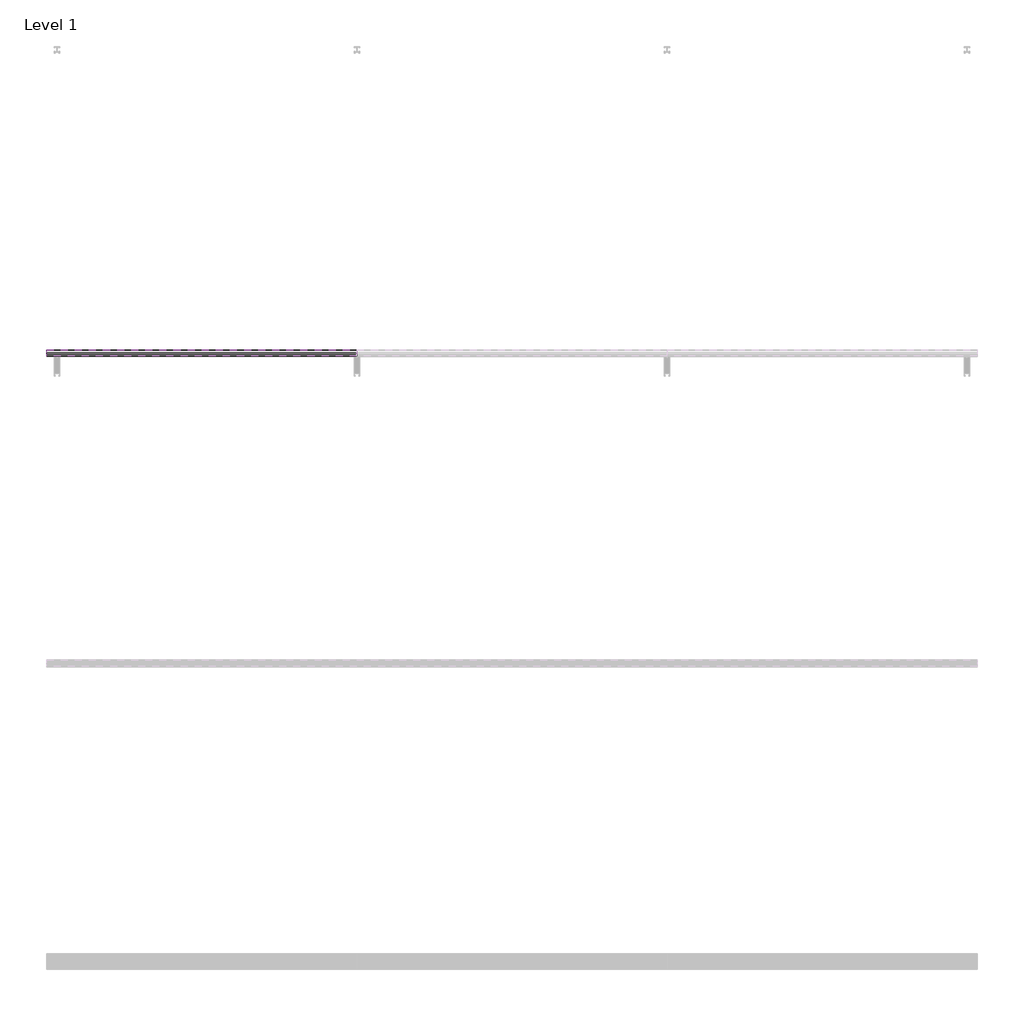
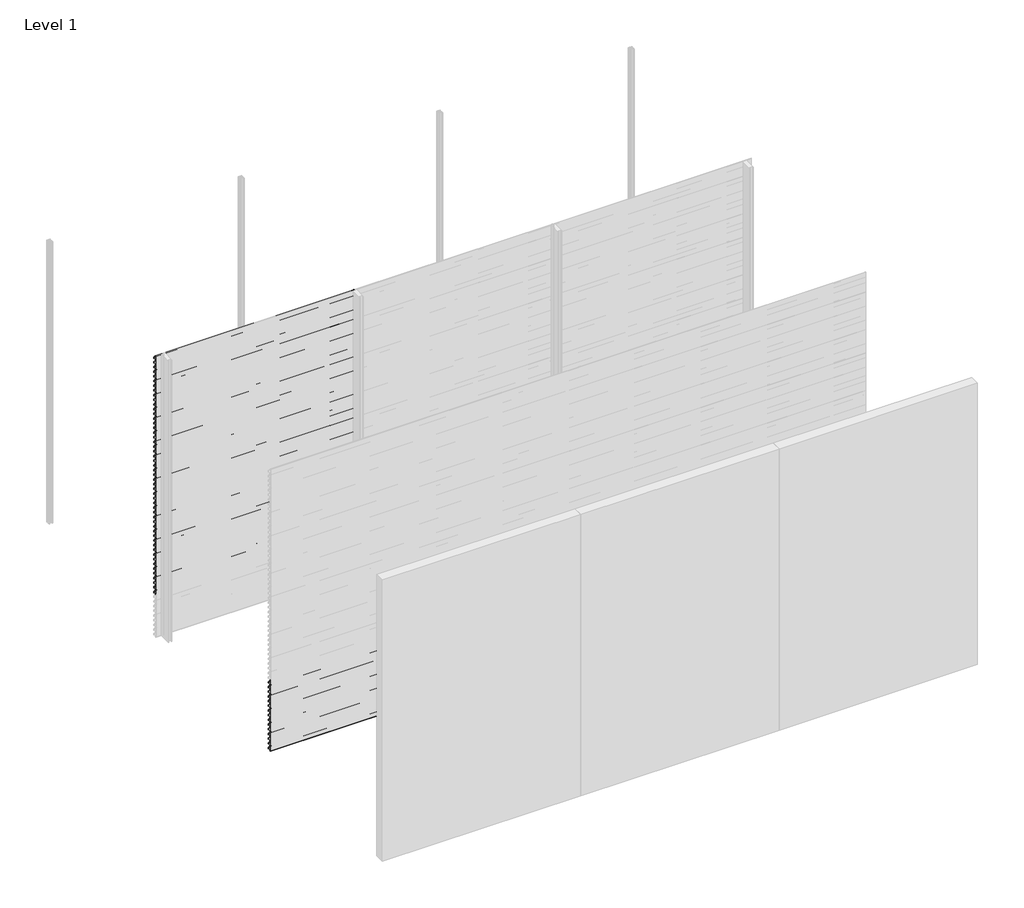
# One storey, part 7 of 38: 66 proxies.
"""IFC4 building model written with IfcOpenShell, lengths in millimetres."""

import ifcopenshell
import ifcopenshell.guid

model = None  # the IFC model being written
_history = None  # IfcOwnerHistory: only IFC2X3 demands one
_inside = {}  # id of a spatial element -> (the spatial element, [elements in it])
_under = {}  # id of a project, library or spatial element -> (it, [spatial elements below it])
_declared = {}  # id of a project -> (the project, [libraries it declares])
_typed = {}  # id of a type object -> (the type object, [elements of that type])
_made_of = {}  # id of a material, layer set ... -> (it, [elements and type objects made of it])


def new_model(schema):
    """Start an empty IFC model of exactly this schema.

    Asked for "IFC4X3", IfcOpenShell would pick the latest addendum, in which some entities
    have other attributes; the version numbers below select the first issue.
    IFC2X3 requires an IfcOwnerHistory on every rooted entity: one is made here for all.
    """
    global model, _history
    if schema == "IFC4X3":
        model = ifcopenshell.file(schema_version=(4, 3, 0, 0))
    else:
        model = ifcopenshell.file(schema=schema)
    _inside.clear()
    _under.clear()
    _declared.clear()
    _typed.clear()
    _made_of.clear()
    _history = None
    if model.schema == "IFC2X3":
        org = make("IfcOrganization", Name="unknown")
        user = make(
            "IfcPersonAndOrganization",
            ThePerson=make("IfcPerson", FamilyName="unknown"),
            TheOrganization=org,
        )
        app = make(
            "IfcApplication",
            ApplicationDeveloper=org,
            Version="unknown",
            ApplicationFullName="unknown",
            ApplicationIdentifier="unknown",
        )
        _history = make(
            "IfcOwnerHistory",
            OwningUser=user,
            OwningApplication=app,
            ChangeAction="ADDED",
            CreationDate=0,
        )
    return model


def make(cls, **values):
    """One entity of the class cls with the attributes given. An attribute that is None is left unset."""
    return model.create_entity(
        cls, **{name: value for name, value in values.items() if value is not None}
    )


def rooted(cls, **values):
    """An entity with a GlobalId (a new one), such as an element, a storey or a relation."""
    return make(cls, GlobalId=ifcopenshell.guid.new(), OwnerHistory=_history, **values)


def si_unit(unit_type, name, prefix=None):
    """IfcSIUnit, for example si_unit("LENGTHUNIT", "METRE", prefix="MILLI")."""
    return make("IfcSIUnit", UnitType=unit_type, Prefix=prefix, Name=name)


def assignment(units):
    """IfcUnitAssignment: the units of a project."""
    return None if units is None else make("IfcUnitAssignment", Units=units)


def point(xyz):
    """IfcCartesianPoint."""
    return None if xyz is None else make("IfcCartesianPoint", Coordinates=xyz)


def direction(xyz):
    """IfcDirection."""
    return None if xyz is None else make("IfcDirection", DirectionRatios=xyz)


def frame(location, z_axis=None, x_axis=None):
    """IfcAxis2Placement3D, a coordinate frame: its origin and axes. An axis left out is left unset."""
    return make(
        "IfcAxis2Placement3D",
        Location=point(location),
        Axis=direction(z_axis),
        RefDirection=direction(x_axis),
    )


def origin():
    """The frame at (0, 0, 0) with its axes left unset."""
    return frame((0.0, 0.0, 0.0))


def place(relative_to, where):
    """IfcLocalPlacement: puts the frame where relative to a parent placement (None: the world)."""
    return make(
        "IfcLocalPlacement", PlacementRelTo=relative_to, RelativePlacement=where
    )


def context(
    kind, dimensions, precision=None, world=None, true_north=None, identifier=None
):
    """IfcGeometricRepresentationContext, for example the 3D "Model" context."""
    return make(
        "IfcGeometricRepresentationContext",
        ContextIdentifier=identifier,
        ContextType=kind,
        CoordinateSpaceDimension=dimensions,
        Precision=precision,
        WorldCoordinateSystem=world,
        TrueNorth=true_north,
    )


def project(units=None, contexts=None):
    """IfcProject with its units and contexts."""
    return rooted(
        "IfcProject",
        Name="project",
        RepresentationContexts=contexts,
        UnitsInContext=assignment(units),
    )


def spatial(cls, under=None, at=None, **own):
    """A site, building, storey or space (cls), placed at a placement, below another one or the project."""
    s = rooted(cls, ObjectPlacement=at, **own)
    if under is not None:
        _under.setdefault(under.id(), (under, []))[1].append(s)
    return s


def polyline(points):
    """IfcPolyline through the points."""
    return make("IfcPolyline", Points=[point(p) for p in points])


def outline(outer, holes=None, kind="AREA"):
    """IfcArbitraryClosedProfileDef: a profile drawn as a closed curve; with holes, ...WithVoids."""
    if holes is None:
        return make("IfcArbitraryClosedProfileDef", ProfileType=kind, OuterCurve=outer)
    return make(
        "IfcArbitraryProfileDefWithVoids",
        ProfileType=kind,
        OuterCurve=outer,
        InnerCurves=holes,
    )


def extrude(swept, where, along, depth):
    """IfcExtrudedAreaSolid: the profile swept, set in the frame where, extruded along a direction by depth."""
    return make(
        "IfcExtrudedAreaSolid",
        SweptArea=swept,
        Position=where,
        ExtrudedDirection=direction(along),
        Depth=depth,
    )


def shape(context_of_items, identifier, shape_type, items):
    """IfcShapeRepresentation: the items that make up one representation, for example the "Body"."""
    return make(
        "IfcShapeRepresentation",
        ContextOfItems=context_of_items,
        RepresentationIdentifier=identifier,
        RepresentationType=shape_type,
        Items=items,
    )


def made_of(thing, what):
    """Note that an element or type object is made of a material, layer set ...; save() writes the relation."""
    if what is not None:
        _made_of.setdefault(what.id(), (what, []))[1].append(thing)
    return thing


def element(
    cls,
    number,
    at=None,
    inside=None,
    cuts=None,
    type_object=None,
    material=None,
    context=None,
    identifier="Body",
    shape_type=None,
    held_by="IfcProductDefinitionShape",
    body=None,
    shapes=None,
    **own,
):
    """One element of the class cls, such as IfcWall. Its Tag is "e" and its number.

    at: its placement. inside: the storey or other place that contains it. cuts: it is an
    opening in that element (IfcRelVoidsElement). A single representation is given by context,
    identifier, shape_type and body (its items); several are given by shapes. held_by: the class
    of the entity that holds the representations. save() writes the other relations.
    """
    e = rooted(cls, Tag="e%d" % number, ObjectPlacement=at, **own)
    if body is not None:
        shapes = [shape(context, identifier, shape_type, body)]
    if shapes is not None:
        e.Representation = make(held_by, Representations=shapes)
    if inside is not None:
        _inside.setdefault(inside.id(), (inside, []))[1].append(e)
    if cuts is not None:
        rooted(
            "IfcRelVoidsElement", RelatingBuildingElement=cuts, RelatedOpeningElement=e
        )
    if type_object is not None:
        _typed.setdefault(type_object.id(), (type_object, []))[1].append(e)
    return made_of(e, material)


def aggregate(whole, parts):
    """IfcRelAggregates: a whole, such as a stair, and the parts it consists of."""
    return rooted("IfcRelAggregates", RelatingObject=whole, RelatedObjects=parts)


def save(model, path):
    """Write the relations noted so far, then the file.

    IfcRelAggregates (storeys below a building ...), IfcRelContainedInSpatialStructure (elements
    in a storey), IfcRelDefinesByType, IfcRelAssociatesMaterial and IfcRelDeclares: one each for
    every whole, place, type object, material and project.
    """
    for whole, parts in _under.values():
        aggregate(whole, parts)
    for where, things in _inside.values():
        rooted(
            "IfcRelContainedInSpatialStructure",
            RelatedElements=things,
            RelatingStructure=where,
        )
    for kind, things in _typed.values():
        rooted("IfcRelDefinesByType", RelatedObjects=things, RelatingType=kind)
    for what, things in _made_of.values():
        rooted("IfcRelAssociatesMaterial", RelatedObjects=things, RelatingMaterial=what)
    for by, libraries in _declared.values():
        rooted("IfcRelDeclares", RelatingContext=by, RelatedDefinitions=libraries)
    model.write(path)


model = new_model("IFC4")

# Units and contexts
model_context = context("Model", 3, world=origin())
ifc_project = project(units=[si_unit("LENGTHUNIT", "METRE", prefix="MILLI")], contexts=[model_context])

# Site, building, storey
site = spatial("IfcSite", under=ifc_project)
building = spatial("IfcBuilding", under=site)
storey = spatial("IfcBuildingStorey", under=building, Name="Level 1", Elevation=0.0)

# Proxies
placement = place(None, origin())
element("IfcBuildingElementProxy", 1, Name="Wall Sweeps", at=placement, inside=storey, context=model_context, shape_type="SweptSolid", body=[
    extrude(outline(polyline([(-47996.75, 3000.0), (-47996.75, 2989.19656), (-47974.6057113, 2976.4115489), (-47957.0, 2959.0472005), (-47957.0, 2944.0472005), (-47958.3, 2945.0268207), (-47958.3, 2958.5034593), (-47969.4914725, 2969.541504), (-47994.2797376, 2940.0), (-47995.9767671, 2940.0), (-47970.4200307, 2970.4573323), (-47975.3999793, 2975.3690091), (-47998.0, 2988.4171371), (-47998.0, 3000.0), (-47996.75, 3000.0)])), frame((0.0, 0.0, 0.0), z_axis=(1.0, 0.0, 0.0), x_axis=(0.0, 1.0, 0.0)), (0.0, 0.0, 1.0), 2000.0),
])
element("IfcBuildingElementProxy", 2, Name="Wall Sweeps", at=placement, inside=storey, context=model_context, shape_type="SweptSolid", body=[
    extrude(outline(polyline([(-47996.75, 2950.0), (-47996.75, 2939.19656), (-47974.6057113, 2926.4115489), (-47957.0, 2909.0472005), (-47957.0, 2894.0472005), (-47958.3, 2895.0268207), (-47958.3, 2908.5034593), (-47969.4914725, 2919.541504), (-47994.2797376, 2890.0), (-47995.9767671, 2890.0), (-47970.4200307, 2920.4573323), (-47975.3999793, 2925.3690091), (-47998.0, 2938.4171371), (-47998.0, 2950.0), (-47996.75, 2950.0)])), frame((0.0, 0.0, 0.0), z_axis=(1.0, 0.0, 0.0), x_axis=(0.0, 1.0, 0.0)), (0.0, 0.0, 1.0), 2000.0),
])
element("IfcBuildingElementProxy", 3, Name="Wall Sweeps", at=placement, inside=storey, context=model_context, shape_type="SweptSolid", body=[
    extrude(outline(polyline([(-47996.75, 2900.0), (-47996.75, 2889.19656), (-47974.6057113, 2876.4115489), (-47957.0, 2859.0472005), (-47957.0, 2844.0472005), (-47958.3, 2845.0268207), (-47958.3, 2858.5034593), (-47969.4914725, 2869.541504), (-47994.2797376, 2840.0), (-47995.9767671, 2840.0), (-47970.4200307, 2870.4573323), (-47975.3999793, 2875.3690091), (-47998.0, 2888.4171371), (-47998.0, 2900.0), (-47996.75, 2900.0)])), frame((0.0, 0.0, 0.0), z_axis=(1.0, 0.0, 0.0), x_axis=(0.0, 1.0, 0.0)), (0.0, 0.0, 1.0), 2000.0),
])
element("IfcBuildingElementProxy", 4, Name="Wall Sweeps", at=placement, inside=storey, context=model_context, shape_type="SweptSolid", body=[
    extrude(outline(polyline([(-47996.75, 2850.0), (-47996.75, 2839.19656), (-47974.6057113, 2826.4115489), (-47957.0, 2809.0472005), (-47957.0, 2794.0472005), (-47958.3, 2795.0268207), (-47958.3, 2808.5034593), (-47969.4914725, 2819.541504), (-47994.2797376, 2790.0), (-47995.9767671, 2790.0), (-47970.4200307, 2820.4573323), (-47975.3999793, 2825.3690091), (-47998.0, 2838.4171371), (-47998.0, 2850.0), (-47996.75, 2850.0)])), frame((0.0, 0.0, 0.0), z_axis=(1.0, 0.0, 0.0), x_axis=(0.0, 1.0, 0.0)), (0.0, 0.0, 1.0), 2000.0),
])
element("IfcBuildingElementProxy", 5, Name="Wall Sweeps", at=placement, inside=storey, context=model_context, shape_type="SweptSolid", body=[
    extrude(outline(polyline([(-47996.75, 2800.0), (-47996.75, 2789.19656), (-47974.6057113, 2776.4115489), (-47957.0, 2759.0472005), (-47957.0, 2744.0472005), (-47958.3, 2745.0268207), (-47958.3, 2758.5034593), (-47969.4914725, 2769.541504), (-47994.2797376, 2740.0), (-47995.9767671, 2740.0), (-47970.4200307, 2770.4573323), (-47975.3999793, 2775.3690091), (-47998.0, 2788.4171371), (-47998.0, 2800.0), (-47996.75, 2800.0)])), frame((0.0, 0.0, 0.0), z_axis=(1.0, 0.0, 0.0), x_axis=(0.0, 1.0, 0.0)), (0.0, 0.0, 1.0), 2000.0),
])
element("IfcBuildingElementProxy", 6, Name="Wall Sweeps", at=placement, inside=storey, context=model_context, shape_type="SweptSolid", body=[
    extrude(outline(polyline([(-47996.75, 2750.0), (-47996.75, 2739.19656), (-47974.6057113, 2726.4115489), (-47957.0, 2709.0472005), (-47957.0, 2694.0472005), (-47958.3, 2695.0268207), (-47958.3, 2708.5034593), (-47969.4914725, 2719.541504), (-47994.2797376, 2690.0), (-47995.9767671, 2690.0), (-47970.4200307, 2720.4573323), (-47975.3999793, 2725.3690091), (-47998.0, 2738.4171371), (-47998.0, 2750.0), (-47996.75, 2750.0)])), frame((0.0, 0.0, 0.0), z_axis=(1.0, 0.0, 0.0), x_axis=(0.0, 1.0, 0.0)), (0.0, 0.0, 1.0), 2000.0),
])
element("IfcBuildingElementProxy", 7, Name="Wall Sweeps", at=placement, inside=storey, context=model_context, shape_type="SweptSolid", body=[
    extrude(outline(polyline([(-47996.75, 2700.0), (-47996.75, 2689.19656), (-47974.6057113, 2676.4115489), (-47957.0, 2659.0472005), (-47957.0, 2644.0472005), (-47958.3, 2645.0268207), (-47958.3, 2658.5034593), (-47969.4914725, 2669.541504), (-47994.2797376, 2640.0), (-47995.9767671, 2640.0), (-47970.4200307, 2670.4573323), (-47975.3999793, 2675.3690091), (-47998.0, 2688.4171371), (-47998.0, 2700.0), (-47996.75, 2700.0)])), frame((0.0, 0.0, 0.0), z_axis=(1.0, 0.0, 0.0), x_axis=(0.0, 1.0, 0.0)), (0.0, 0.0, 1.0), 2000.0),
])
element("IfcBuildingElementProxy", 8, Name="Wall Sweeps", at=placement, inside=storey, context=model_context, shape_type="SweptSolid", body=[
    extrude(outline(polyline([(-47996.75, 2650.0), (-47996.75, 2639.19656), (-47974.6057113, 2626.4115489), (-47957.0, 2609.0472005), (-47957.0, 2594.0472005), (-47958.3, 2595.0268207), (-47958.3, 2608.5034593), (-47969.4914725, 2619.541504), (-47994.2797376, 2590.0), (-47995.9767671, 2590.0), (-47970.4200307, 2620.4573323), (-47975.3999793, 2625.3690091), (-47998.0, 2638.4171371), (-47998.0, 2650.0), (-47996.75, 2650.0)])), frame((0.0, 0.0, 0.0), z_axis=(1.0, 0.0, 0.0), x_axis=(0.0, 1.0, 0.0)), (0.0, 0.0, 1.0), 2000.0),
])
element("IfcBuildingElementProxy", 9, Name="Wall Sweeps", at=placement, inside=storey, context=model_context, shape_type="SweptSolid", body=[
    extrude(outline(polyline([(-47996.75, 2600.0), (-47996.75, 2589.19656), (-47974.6057113, 2576.4115489), (-47957.0, 2559.0472005), (-47957.0, 2544.0472005), (-47958.3, 2545.0268207), (-47958.3, 2558.5034593), (-47969.4914725, 2569.541504), (-47994.2797376, 2540.0), (-47995.9767671, 2540.0), (-47970.4200307, 2570.4573323), (-47975.3999793, 2575.3690091), (-47998.0, 2588.4171371), (-47998.0, 2600.0), (-47996.75, 2600.0)])), frame((0.0, 0.0, 0.0), z_axis=(1.0, 0.0, 0.0), x_axis=(0.0, 1.0, 0.0)), (0.0, 0.0, 1.0), 2000.0),
])
element("IfcBuildingElementProxy", 10, Name="Wall Sweeps", at=placement, inside=storey, context=model_context, shape_type="SweptSolid", body=[
    extrude(outline(polyline([(-47996.75, 2550.0), (-47996.75, 2539.19656), (-47974.6057113, 2526.4115489), (-47957.0, 2509.0472005), (-47957.0, 2494.0472005), (-47958.3, 2495.0268207), (-47958.3, 2508.5034593), (-47969.4914725, 2519.541504), (-47994.2797376, 2490.0), (-47995.9767671, 2490.0), (-47970.4200307, 2520.4573323), (-47975.3999793, 2525.3690091), (-47998.0, 2538.4171371), (-47998.0, 2550.0), (-47996.75, 2550.0)])), frame((0.0, 0.0, 0.0), z_axis=(1.0, 0.0, 0.0), x_axis=(0.0, 1.0, 0.0)), (0.0, 0.0, 1.0), 2000.0),
])
element("IfcBuildingElementProxy", 11, Name="Wall Sweeps", at=placement, inside=storey, context=model_context, shape_type="SweptSolid", body=[
    extrude(outline(polyline([(-47996.75, 2500.0), (-47996.75, 2489.19656), (-47974.6057113, 2476.4115489), (-47957.0, 2459.0472005), (-47957.0, 2444.0472005), (-47958.3, 2445.0268207), (-47958.3, 2458.5034593), (-47969.4914725, 2469.541504), (-47994.2797376, 2440.0), (-47995.9767671, 2440.0), (-47970.4200307, 2470.4573323), (-47975.3999793, 2475.3690091), (-47998.0, 2488.4171371), (-47998.0, 2500.0), (-47996.75, 2500.0)])), frame((0.0, 0.0, 0.0), z_axis=(1.0, 0.0, 0.0), x_axis=(0.0, 1.0, 0.0)), (0.0, 0.0, 1.0), 2000.0),
])
element("IfcBuildingElementProxy", 12, Name="Wall Sweeps", at=placement, inside=storey, context=model_context, shape_type="SweptSolid", body=[
    extrude(outline(polyline([(-47996.75, 2450.0), (-47996.75, 2439.19656), (-47974.6057113, 2426.4115489), (-47957.0, 2409.0472005), (-47957.0, 2394.0472005), (-47958.3, 2395.0268207), (-47958.3, 2408.5034593), (-47969.4914725, 2419.541504), (-47994.2797376, 2390.0), (-47995.9767671, 2390.0), (-47970.4200307, 2420.4573323), (-47975.3999793, 2425.3690091), (-47998.0, 2438.4171371), (-47998.0, 2450.0), (-47996.75, 2450.0)])), frame((0.0, 0.0, 0.0), z_axis=(1.0, 0.0, 0.0), x_axis=(0.0, 1.0, 0.0)), (0.0, 0.0, 1.0), 2000.0),
])
element("IfcBuildingElementProxy", 13, Name="Wall Sweeps", at=placement, inside=storey, context=model_context, shape_type="SweptSolid", body=[
    extrude(outline(polyline([(-47996.75, 2400.0), (-47996.75, 2389.19656), (-47974.6057113, 2376.4115489), (-47957.0, 2359.0472005), (-47957.0, 2344.0472005), (-47958.3, 2345.0268207), (-47958.3, 2358.5034593), (-47969.4914725, 2369.541504), (-47994.2797376, 2340.0), (-47995.9767671, 2340.0), (-47970.4200307, 2370.4573323), (-47975.3999793, 2375.3690091), (-47998.0, 2388.4171371), (-47998.0, 2400.0), (-47996.75, 2400.0)])), frame((0.0, 0.0, 0.0), z_axis=(1.0, 0.0, 0.0), x_axis=(0.0, 1.0, 0.0)), (0.0, 0.0, 1.0), 2000.0),
])
element("IfcBuildingElementProxy", 14, Name="Wall Sweeps", at=placement, inside=storey, context=model_context, shape_type="SweptSolid", body=[
    extrude(outline(polyline([(-47996.75, 2350.0), (-47996.75, 2339.19656), (-47974.6057113, 2326.4115489), (-47957.0, 2309.0472005), (-47957.0, 2294.0472005), (-47958.3, 2295.0268207), (-47958.3, 2308.5034593), (-47969.4914725, 2319.541504), (-47994.2797376, 2290.0), (-47995.9767671, 2290.0), (-47970.4200307, 2320.4573323), (-47975.3999793, 2325.3690091), (-47998.0, 2338.4171371), (-47998.0, 2350.0), (-47996.75, 2350.0)])), frame((0.0, 0.0, 0.0), z_axis=(1.0, 0.0, 0.0), x_axis=(0.0, 1.0, 0.0)), (0.0, 0.0, 1.0), 2000.0),
])
element("IfcBuildingElementProxy", 15, Name="Wall Sweeps", at=placement, inside=storey, context=model_context, shape_type="SweptSolid", body=[
    extrude(outline(polyline([(-47996.75, 2300.0), (-47996.75, 2289.19656), (-47974.6057113, 2276.4115489), (-47957.0, 2259.0472005), (-47957.0, 2244.0472005), (-47958.3, 2245.0268207), (-47958.3, 2258.5034593), (-47969.4914725, 2269.541504), (-47994.2797376, 2240.0), (-47995.9767671, 2240.0), (-47970.4200307, 2270.4573323), (-47975.3999793, 2275.3690091), (-47998.0, 2288.4171371), (-47998.0, 2300.0), (-47996.75, 2300.0)])), frame((0.0, 0.0, 0.0), z_axis=(1.0, 0.0, 0.0), x_axis=(0.0, 1.0, 0.0)), (0.0, 0.0, 1.0), 2000.0),
])
element("IfcBuildingElementProxy", 16, Name="Wall Sweeps", at=placement, inside=storey, context=model_context, shape_type="SweptSolid", body=[
    extrude(outline(polyline([(-47996.75, 2250.0), (-47996.75, 2239.19656), (-47974.6057113, 2226.4115489), (-47957.0, 2209.0472005), (-47957.0, 2194.0472005), (-47958.3, 2195.0268207), (-47958.3, 2208.5034593), (-47969.4914725, 2219.541504), (-47994.2797376, 2190.0), (-47995.9767671, 2190.0), (-47970.4200307, 2220.4573323), (-47975.3999793, 2225.3690091), (-47998.0, 2238.4171371), (-47998.0, 2250.0), (-47996.75, 2250.0)])), frame((0.0, 0.0, 0.0), z_axis=(1.0, 0.0, 0.0), x_axis=(0.0, 1.0, 0.0)), (0.0, 0.0, 1.0), 2000.0),
])
element("IfcBuildingElementProxy", 17, Name="Wall Sweeps", at=placement, inside=storey, context=model_context, shape_type="SweptSolid", body=[
    extrude(outline(polyline([(-47996.75, 2200.0), (-47996.75, 2189.19656), (-47974.6057113, 2176.4115489), (-47957.0, 2159.0472005), (-47957.0, 2144.0472005), (-47958.3, 2145.0268207), (-47958.3, 2158.5034593), (-47969.4914725, 2169.541504), (-47994.2797376, 2140.0), (-47995.9767671, 2140.0), (-47970.4200307, 2170.4573323), (-47975.3999793, 2175.3690091), (-47998.0, 2188.4171371), (-47998.0, 2200.0), (-47996.75, 2200.0)])), frame((0.0, 0.0, 0.0), z_axis=(1.0, 0.0, 0.0), x_axis=(0.0, 1.0, 0.0)), (0.0, 0.0, 1.0), 2000.0),
])
element("IfcBuildingElementProxy", 18, Name="Wall Sweeps", at=placement, inside=storey, context=model_context, shape_type="SweptSolid", body=[
    extrude(outline(polyline([(-47996.75, 2150.0), (-47996.75, 2139.19656), (-47974.6057113, 2126.4115489), (-47957.0, 2109.0472005), (-47957.0, 2094.0472005), (-47958.3, 2095.0268207), (-47958.3, 2108.5034593), (-47969.4914725, 2119.541504), (-47994.2797376, 2090.0), (-47995.9767671, 2090.0), (-47970.4200307, 2120.4573323), (-47975.3999793, 2125.3690091), (-47998.0, 2138.4171371), (-47998.0, 2150.0), (-47996.75, 2150.0)])), frame((0.0, 0.0, 0.0), z_axis=(1.0, 0.0, 0.0), x_axis=(0.0, 1.0, 0.0)), (0.0, 0.0, 1.0), 2000.0),
])
element("IfcBuildingElementProxy", 19, Name="Wall Sweeps", at=placement, inside=storey, context=model_context, shape_type="SweptSolid", body=[
    extrude(outline(polyline([(-47996.75, 2100.0), (-47996.75, 2089.19656), (-47974.6057113, 2076.4115489), (-47957.0, 2059.0472005), (-47957.0, 2044.0472005), (-47958.3, 2045.0268207), (-47958.3, 2058.5034593), (-47969.4914725, 2069.541504), (-47994.2797376, 2040.0), (-47995.9767671, 2040.0), (-47970.4200307, 2070.4573323), (-47975.3999793, 2075.3690091), (-47998.0, 2088.4171371), (-47998.0, 2100.0), (-47996.75, 2100.0)])), frame((0.0, 0.0, 0.0), z_axis=(1.0, 0.0, 0.0), x_axis=(0.0, 1.0, 0.0)), (0.0, 0.0, 1.0), 2000.0),
])
element("IfcBuildingElementProxy", 20, Name="Wall Sweeps", at=placement, inside=storey, context=model_context, shape_type="SweptSolid", body=[
    extrude(outline(polyline([(-47996.75, 2050.0), (-47996.75, 2039.19656), (-47974.6057113, 2026.4115489), (-47957.0, 2009.0472005), (-47957.0, 1994.0472005), (-47958.3, 1995.0268207), (-47958.3, 2008.5034593), (-47969.4914725, 2019.541504), (-47994.2797376, 1990.0), (-47995.9767671, 1990.0), (-47970.4200307, 2020.4573323), (-47975.3999793, 2025.3690091), (-47998.0, 2038.4171371), (-47998.0, 2050.0), (-47996.75, 2050.0)])), frame((0.0, 0.0, 0.0), z_axis=(1.0, 0.0, 0.0), x_axis=(0.0, 1.0, 0.0)), (0.0, 0.0, 1.0), 2000.0),
])
element("IfcBuildingElementProxy", 21, Name="Wall Sweeps", at=placement, inside=storey, context=model_context, shape_type="SweptSolid", body=[
    extrude(outline(polyline([(-47996.75, 2000.0), (-47996.75, 1989.19656), (-47974.6057113, 1976.4115489), (-47957.0, 1959.0472005), (-47957.0, 1944.0472005), (-47958.3, 1945.0268207), (-47958.3, 1958.5034593), (-47969.4914725, 1969.541504), (-47994.2797376, 1940.0), (-47995.9767671, 1940.0), (-47970.4200307, 1970.4573323), (-47975.3999793, 1975.3690091), (-47998.0, 1988.4171371), (-47998.0, 2000.0), (-47996.75, 2000.0)])), frame((0.0, 0.0, 0.0), z_axis=(1.0, 0.0, 0.0), x_axis=(0.0, 1.0, 0.0)), (0.0, 0.0, 1.0), 2000.0),
])
element("IfcBuildingElementProxy", 22, Name="Wall Sweeps", at=placement, inside=storey, context=model_context, shape_type="SweptSolid", body=[
    extrude(outline(polyline([(-47996.75, 1950.0), (-47996.75, 1939.19656), (-47974.6057113, 1926.4115489), (-47957.0, 1909.0472005), (-47957.0, 1894.0472005), (-47958.3, 1895.0268207), (-47958.3, 1908.5034593), (-47969.4914725, 1919.541504), (-47994.2797376, 1890.0), (-47995.9767671, 1890.0), (-47970.4200307, 1920.4573323), (-47975.3999793, 1925.3690091), (-47998.0, 1938.4171371), (-47998.0, 1950.0), (-47996.75, 1950.0)])), frame((0.0, 0.0, 0.0), z_axis=(1.0, 0.0, 0.0), x_axis=(0.0, 1.0, 0.0)), (0.0, 0.0, 1.0), 2000.0),
])
element("IfcBuildingElementProxy", 23, Name="Wall Sweeps", at=placement, inside=storey, context=model_context, shape_type="SweptSolid", body=[
    extrude(outline(polyline([(-47996.75, 1900.0), (-47996.75, 1889.19656), (-47974.6057113, 1876.4115489), (-47957.0, 1859.0472005), (-47957.0, 1844.0472005), (-47958.3, 1845.0268207), (-47958.3, 1858.5034593), (-47969.4914725, 1869.541504), (-47994.2797376, 1840.0), (-47995.9767671, 1840.0), (-47970.4200307, 1870.4573323), (-47975.3999793, 1875.3690091), (-47998.0, 1888.4171371), (-47998.0, 1900.0), (-47996.75, 1900.0)])), frame((0.0, 0.0, 0.0), z_axis=(1.0, 0.0, 0.0), x_axis=(0.0, 1.0, 0.0)), (0.0, 0.0, 1.0), 2000.0),
])
element("IfcBuildingElementProxy", 24, Name="Wall Sweeps", at=placement, inside=storey, context=model_context, shape_type="SweptSolid", body=[
    extrude(outline(polyline([(-47996.75, 1850.0), (-47996.75, 1839.19656), (-47974.6057113, 1826.4115489), (-47957.0, 1809.0472005), (-47957.0, 1794.0472005), (-47958.3, 1795.0268207), (-47958.3, 1808.5034593), (-47969.4914725, 1819.541504), (-47994.2797376, 1790.0), (-47995.9767671, 1790.0), (-47970.4200307, 1820.4573323), (-47975.3999793, 1825.3690091), (-47998.0, 1838.4171371), (-47998.0, 1850.0), (-47996.75, 1850.0)])), frame((0.0, 0.0, 0.0), z_axis=(1.0, 0.0, 0.0), x_axis=(0.0, 1.0, 0.0)), (0.0, 0.0, 1.0), 2000.0),
])
element("IfcBuildingElementProxy", 25, Name="Wall Sweeps", at=placement, inside=storey, context=model_context, shape_type="SweptSolid", body=[
    extrude(outline(polyline([(-47996.75, 1800.0), (-47996.75, 1789.19656), (-47974.6057113, 1776.4115489), (-47957.0, 1759.0472005), (-47957.0, 1744.0472005), (-47958.3, 1745.0268207), (-47958.3, 1758.5034593), (-47969.4914725, 1769.541504), (-47994.2797376, 1740.0), (-47995.9767671, 1740.0), (-47970.4200307, 1770.4573323), (-47975.3999793, 1775.3690091), (-47998.0, 1788.4171371), (-47998.0, 1800.0), (-47996.75, 1800.0)])), frame((0.0, 0.0, 0.0), z_axis=(1.0, 0.0, 0.0), x_axis=(0.0, 1.0, 0.0)), (0.0, 0.0, 1.0), 2000.0),
])
element("IfcBuildingElementProxy", 26, Name="Wall Sweeps", at=placement, inside=storey, context=model_context, shape_type="SweptSolid", body=[
    extrude(outline(polyline([(-47996.75, 1750.0), (-47996.75, 1739.19656), (-47974.6057113, 1726.4115489), (-47957.0, 1709.0472005), (-47957.0, 1694.0472005), (-47958.3, 1695.0268207), (-47958.3, 1708.5034593), (-47969.4914725, 1719.541504), (-47994.2797376, 1690.0), (-47995.9767671, 1690.0), (-47970.4200307, 1720.4573323), (-47975.3999793, 1725.3690091), (-47998.0, 1738.4171371), (-47998.0, 1750.0), (-47996.75, 1750.0)])), frame((0.0, 0.0, 0.0), z_axis=(1.0, 0.0, 0.0), x_axis=(0.0, 1.0, 0.0)), (0.0, 0.0, 1.0), 2000.0),
])
element("IfcBuildingElementProxy", 27, Name="Wall Sweeps", at=placement, inside=storey, context=model_context, shape_type="SweptSolid", body=[
    extrude(outline(polyline([(-47996.75, 1700.0), (-47996.75, 1689.19656), (-47974.6057113, 1676.4115489), (-47957.0, 1659.0472005), (-47957.0, 1644.0472005), (-47958.3, 1645.0268207), (-47958.3, 1658.5034593), (-47969.4914725, 1669.541504), (-47994.2797376, 1640.0), (-47995.9767671, 1640.0), (-47970.4200307, 1670.4573323), (-47975.3999793, 1675.3690091), (-47998.0, 1688.4171371), (-47998.0, 1700.0), (-47996.75, 1700.0)])), frame((0.0, 0.0, 0.0), z_axis=(1.0, 0.0, 0.0), x_axis=(0.0, 1.0, 0.0)), (0.0, 0.0, 1.0), 2000.0),
])
element("IfcBuildingElementProxy", 28, Name="Wall Sweeps", at=placement, inside=storey, context=model_context, shape_type="SweptSolid", body=[
    extrude(outline(polyline([(-47996.75, 1650.0), (-47996.75, 1639.19656), (-47974.6057113, 1626.4115489), (-47957.0, 1609.0472005), (-47957.0, 1594.0472005), (-47958.3, 1595.0268207), (-47958.3, 1608.5034593), (-47969.4914725, 1619.541504), (-47994.2797376, 1590.0), (-47995.9767671, 1590.0), (-47970.4200307, 1620.4573323), (-47975.3999793, 1625.3690091), (-47998.0, 1638.4171371), (-47998.0, 1650.0), (-47996.75, 1650.0)])), frame((0.0, 0.0, 0.0), z_axis=(1.0, 0.0, 0.0), x_axis=(0.0, 1.0, 0.0)), (0.0, 0.0, 1.0), 2000.0),
])
element("IfcBuildingElementProxy", 29, Name="Wall Sweeps", at=placement, inside=storey, context=model_context, shape_type="SweptSolid", body=[
    extrude(outline(polyline([(-47996.75, 1600.0), (-47996.75, 1589.19656), (-47974.6057113, 1576.4115489), (-47957.0, 1559.0472005), (-47957.0, 1544.0472005), (-47958.3, 1545.0268207), (-47958.3, 1558.5034593), (-47969.4914725, 1569.541504), (-47994.2797376, 1540.0), (-47995.9767671, 1540.0), (-47970.4200307, 1570.4573323), (-47975.3999793, 1575.3690091), (-47998.0, 1588.4171371), (-47998.0, 1600.0), (-47996.75, 1600.0)])), frame((0.0, 0.0, 0.0), z_axis=(1.0, 0.0, 0.0), x_axis=(0.0, 1.0, 0.0)), (0.0, 0.0, 1.0), 2000.0),
])
element("IfcBuildingElementProxy", 30, Name="Wall Sweeps", at=placement, inside=storey, context=model_context, shape_type="SweptSolid", body=[
    extrude(outline(polyline([(-47996.75, 1550.0), (-47996.75, 1539.19656), (-47974.6057113, 1526.4115489), (-47957.0, 1509.0472005), (-47957.0, 1494.0472005), (-47958.3, 1495.0268207), (-47958.3, 1508.5034593), (-47969.4914725, 1519.541504), (-47994.2797376, 1490.0), (-47995.9767671, 1490.0), (-47970.4200307, 1520.4573323), (-47975.3999793, 1525.3690091), (-47998.0, 1538.4171371), (-47998.0, 1550.0), (-47996.75, 1550.0)])), frame((0.0, 0.0, 0.0), z_axis=(1.0, 0.0, 0.0), x_axis=(0.0, 1.0, 0.0)), (0.0, 0.0, 1.0), 2000.0),
])
element("IfcBuildingElementProxy", 31, Name="Wall Sweeps", at=placement, inside=storey, context=model_context, shape_type="SweptSolid", body=[
    extrude(outline(polyline([(-47996.75, 1500.0), (-47996.75, 1489.19656), (-47974.6057113, 1476.4115489), (-47957.0, 1459.0472005), (-47957.0, 1444.0472005), (-47958.3, 1445.0268207), (-47958.3, 1458.5034593), (-47969.4914725, 1469.541504), (-47994.2797376, 1440.0), (-47995.9767671, 1440.0), (-47970.4200307, 1470.4573323), (-47975.3999793, 1475.3690091), (-47998.0, 1488.4171371), (-47998.0, 1500.0), (-47996.75, 1500.0)])), frame((0.0, 0.0, 0.0), z_axis=(1.0, 0.0, 0.0), x_axis=(0.0, 1.0, 0.0)), (0.0, 0.0, 1.0), 2000.0),
])
element("IfcBuildingElementProxy", 32, Name="Wall Sweeps", at=placement, inside=storey, context=model_context, shape_type="SweptSolid", body=[
    extrude(outline(polyline([(-47996.75, 1450.0), (-47996.75, 1439.19656), (-47974.6057113, 1426.4115489), (-47957.0, 1409.0472005), (-47957.0, 1394.0472005), (-47958.3, 1395.0268207), (-47958.3, 1408.5034593), (-47969.4914725, 1419.541504), (-47994.2797376, 1390.0), (-47995.9767671, 1390.0), (-47970.4200307, 1420.4573323), (-47975.3999793, 1425.3690091), (-47998.0, 1438.4171371), (-47998.0, 1450.0), (-47996.75, 1450.0)])), frame((0.0, 0.0, 0.0), z_axis=(1.0, 0.0, 0.0), x_axis=(0.0, 1.0, 0.0)), (0.0, 0.0, 1.0), 2000.0),
])
element("IfcBuildingElementProxy", 33, Name="Wall Sweeps", at=placement, inside=storey, context=model_context, shape_type="SweptSolid", body=[
    extrude(outline(polyline([(-47996.75, 1400.0), (-47996.75, 1389.19656), (-47974.6057113, 1376.4115489), (-47957.0, 1359.0472005), (-47957.0, 1344.0472005), (-47958.3, 1345.0268207), (-47958.3, 1358.5034593), (-47969.4914725, 1369.541504), (-47994.2797376, 1340.0), (-47995.9767671, 1340.0), (-47970.4200307, 1370.4573323), (-47975.3999793, 1375.3690091), (-47998.0, 1388.4171371), (-47998.0, 1400.0), (-47996.75, 1400.0)])), frame((0.0, 0.0, 0.0), z_axis=(1.0, 0.0, 0.0), x_axis=(0.0, 1.0, 0.0)), (0.0, 0.0, 1.0), 2000.0),
])
element("IfcBuildingElementProxy", 34, Name="Wall Sweeps", at=placement, inside=storey, context=model_context, shape_type="SweptSolid", body=[
    extrude(outline(polyline([(-47996.75, 1350.0), (-47996.75, 1339.19656), (-47974.6057113, 1326.4115489), (-47957.0, 1309.0472005), (-47957.0, 1294.0472005), (-47958.3, 1295.0268207), (-47958.3, 1308.5034593), (-47969.4914725, 1319.541504), (-47994.2797376, 1290.0), (-47995.9767671, 1290.0), (-47970.4200307, 1320.4573323), (-47975.3999793, 1325.3690091), (-47998.0, 1338.4171371), (-47998.0, 1350.0), (-47996.75, 1350.0)])), frame((0.0, 0.0, 0.0), z_axis=(1.0, 0.0, 0.0), x_axis=(0.0, 1.0, 0.0)), (0.0, 0.0, 1.0), 2000.0),
])
element("IfcBuildingElementProxy", 35, Name="Wall Sweeps", at=placement, inside=storey, context=model_context, shape_type="SweptSolid", body=[
    extrude(outline(polyline([(-47996.75, 1300.0), (-47996.75, 1289.19656), (-47974.6057113, 1276.4115489), (-47957.0, 1259.0472005), (-47957.0, 1244.0472005), (-47958.3, 1245.0268207), (-47958.3, 1258.5034593), (-47969.4914725, 1269.541504), (-47994.2797376, 1240.0), (-47995.9767671, 1240.0), (-47970.4200307, 1270.4573323), (-47975.3999793, 1275.3690091), (-47998.0, 1288.4171371), (-47998.0, 1300.0), (-47996.75, 1300.0)])), frame((0.0, 0.0, 0.0), z_axis=(1.0, 0.0, 0.0), x_axis=(0.0, 1.0, 0.0)), (0.0, 0.0, 1.0), 2000.0),
])
element("IfcBuildingElementProxy", 36, Name="Wall Sweeps", at=placement, inside=storey, context=model_context, shape_type="SweptSolid", body=[
    extrude(outline(polyline([(-47996.75, 1250.0), (-47996.75, 1239.19656), (-47974.6057113, 1226.4115489), (-47957.0, 1209.0472005), (-47957.0, 1194.0472005), (-47958.3, 1195.0268207), (-47958.3, 1208.5034593), (-47969.4914725, 1219.541504), (-47994.2797376, 1190.0), (-47995.9767671, 1190.0), (-47970.4200307, 1220.4573323), (-47975.3999793, 1225.3690091), (-47998.0, 1238.4171371), (-47998.0, 1250.0), (-47996.75, 1250.0)])), frame((0.0, 0.0, 0.0), z_axis=(1.0, 0.0, 0.0), x_axis=(0.0, 1.0, 0.0)), (0.0, 0.0, 1.0), 2000.0),
])
element("IfcBuildingElementProxy", 37, Name="Wall Sweeps", at=placement, inside=storey, context=model_context, shape_type="SweptSolid", body=[
    extrude(outline(polyline([(-47996.75, 1200.0), (-47996.75, 1189.19656), (-47974.6057113, 1176.4115489), (-47957.0, 1159.0472005), (-47957.0, 1144.0472005), (-47958.3, 1145.0268207), (-47958.3, 1158.5034593), (-47969.4914725, 1169.541504), (-47994.2797376, 1140.0), (-47995.9767671, 1140.0), (-47970.4200307, 1170.4573323), (-47975.3999793, 1175.3690091), (-47998.0, 1188.4171371), (-47998.0, 1200.0), (-47996.75, 1200.0)])), frame((0.0, 0.0, 0.0), z_axis=(1.0, 0.0, 0.0), x_axis=(0.0, 1.0, 0.0)), (0.0, 0.0, 1.0), 2000.0),
])
element("IfcBuildingElementProxy", 38, Name="Wall Sweeps", at=placement, inside=storey, context=model_context, shape_type="SweptSolid", body=[
    extrude(outline(polyline([(-47996.75, 1150.0), (-47996.75, 1139.19656), (-47974.6057113, 1126.4115489), (-47957.0, 1109.0472005), (-47957.0, 1094.0472005), (-47958.3, 1095.0268207), (-47958.3, 1108.5034593), (-47969.4914725, 1119.541504), (-47994.2797376, 1090.0), (-47995.9767671, 1090.0), (-47970.4200307, 1120.4573323), (-47975.3999793, 1125.3690091), (-47998.0, 1138.4171371), (-47998.0, 1150.0), (-47996.75, 1150.0)])), frame((0.0, 0.0, 0.0), z_axis=(1.0, 0.0, 0.0), x_axis=(0.0, 1.0, 0.0)), (0.0, 0.0, 1.0), 2000.0),
])
element("IfcBuildingElementProxy", 39, Name="Wall Sweeps", at=placement, inside=storey, context=model_context, shape_type="SweptSolid", body=[
    extrude(outline(polyline([(-47996.75, 1100.0), (-47996.75, 1089.19656), (-47974.6057113, 1076.4115489), (-47957.0, 1059.0472005), (-47957.0, 1044.0472005), (-47958.3, 1045.0268207), (-47958.3, 1058.5034593), (-47969.4914725, 1069.541504), (-47994.2797376, 1040.0), (-47995.9767671, 1040.0), (-47970.4200307, 1070.4573323), (-47975.3999793, 1075.3690091), (-47998.0, 1088.4171371), (-47998.0, 1100.0), (-47996.75, 1100.0)])), frame((0.0, 0.0, 0.0), z_axis=(1.0, 0.0, 0.0), x_axis=(0.0, 1.0, 0.0)), (0.0, 0.0, 1.0), 2000.0),
])
element("IfcBuildingElementProxy", 40, Name="Wall Sweeps", at=placement, inside=storey, context=model_context, shape_type="SweptSolid", body=[
    extrude(outline(polyline([(-47996.75, 1050.0), (-47996.75, 1039.19656), (-47974.6057113, 1026.4115489), (-47957.0, 1009.0472005), (-47957.0, 994.0472005), (-47958.3, 995.0268207), (-47958.3, 1008.5034593), (-47969.4914725, 1019.541504), (-47994.2797376, 990.0), (-47995.9767671, 990.0), (-47970.4200307, 1020.4573323), (-47975.3999793, 1025.3690091), (-47998.0, 1038.4171371), (-47998.0, 1050.0), (-47996.75, 1050.0)])), frame((0.0, 0.0, 0.0), z_axis=(1.0, 0.0, 0.0), x_axis=(0.0, 1.0, 0.0)), (0.0, 0.0, 1.0), 2000.0),
])
element("IfcBuildingElementProxy", 41, Name="Wall Sweeps", at=placement, inside=storey, context=model_context, shape_type="SweptSolid", body=[
    extrude(outline(polyline([(-47996.75, 1000.0), (-47996.75, 989.19656), (-47974.6057113, 976.4115489), (-47957.0, 959.0472005), (-47957.0, 944.0472005), (-47958.3, 945.0268207), (-47958.3, 958.5034593), (-47969.4914725, 969.541504), (-47994.2797376, 940.0), (-47995.9767671, 940.0), (-47970.4200307, 970.4573323), (-47975.3999793, 975.3690091), (-47998.0, 988.4171371), (-47998.0, 1000.0), (-47996.75, 1000.0)])), frame((0.0, 0.0, 0.0), z_axis=(1.0, 0.0, 0.0), x_axis=(0.0, 1.0, 0.0)), (0.0, 0.0, 1.0), 2000.0),
])
element("IfcBuildingElementProxy", 42, Name="Wall Sweeps", at=placement, inside=storey, context=model_context, shape_type="SweptSolid", body=[
    extrude(outline(polyline([(-47996.75, 950.0), (-47996.75, 939.19656), (-47974.6057113, 926.4115489), (-47957.0, 909.0472005), (-47957.0, 894.0472005), (-47958.3, 895.0268207), (-47958.3, 908.5034593), (-47969.4914725, 919.541504), (-47994.2797376, 890.0), (-47995.9767671, 890.0), (-47970.4200307, 920.4573323), (-47975.3999793, 925.3690091), (-47998.0, 938.4171371), (-47998.0, 950.0), (-47996.75, 950.0)])), frame((0.0, 0.0, 0.0), z_axis=(1.0, 0.0, 0.0), x_axis=(0.0, 1.0, 0.0)), (0.0, 0.0, 1.0), 2000.0),
])
element("IfcBuildingElementProxy", 43, Name="Wall Sweeps", at=placement, inside=storey, context=model_context, shape_type="SweptSolid", body=[
    extrude(outline(polyline([(-47996.75, 900.0), (-47996.75, 889.19656), (-47974.6057113, 876.4115489), (-47957.0, 859.0472005), (-47957.0, 844.0472005), (-47958.3, 845.0268207), (-47958.3, 858.5034593), (-47969.4914725, 869.541504), (-47994.2797376, 840.0), (-47995.9767671, 840.0), (-47970.4200307, 870.4573323), (-47975.3999793, 875.3690091), (-47998.0, 888.4171371), (-47998.0, 900.0), (-47996.75, 900.0)])), frame((0.0, 0.0, 0.0), z_axis=(1.0, 0.0, 0.0), x_axis=(0.0, 1.0, 0.0)), (0.0, 0.0, 1.0), 2000.0),
])
element("IfcBuildingElementProxy", 44, Name="Wall Sweeps", at=placement, inside=storey, context=model_context, shape_type="SweptSolid", body=[
    extrude(outline(polyline([(-47996.75, 850.0), (-47996.75, 839.19656), (-47974.6057113, 826.4115489), (-47957.0, 809.0472005), (-47957.0, 794.0472005), (-47958.3, 795.0268207), (-47958.3, 808.5034593), (-47969.4914725, 819.541504), (-47994.2797376, 790.0), (-47995.9767671, 790.0), (-47970.4200307, 820.4573323), (-47975.3999793, 825.3690091), (-47998.0, 838.4171371), (-47998.0, 850.0), (-47996.75, 850.0)])), frame((0.0, 0.0, 0.0), z_axis=(1.0, 0.0, 0.0), x_axis=(0.0, 1.0, 0.0)), (0.0, 0.0, 1.0), 2000.0),
])
element("IfcBuildingElementProxy", 45, Name="Wall Sweeps", at=placement, inside=storey, context=model_context, shape_type="SweptSolid", body=[
    extrude(outline(polyline([(-47996.75, 800.0), (-47996.75, 789.19656), (-47974.6057113, 776.4115489), (-47957.0, 759.0472005), (-47957.0, 744.0472005), (-47958.3, 745.0268207), (-47958.3, 758.5034593), (-47969.4914725, 769.541504), (-47994.2797376, 740.0), (-47995.9767671, 740.0), (-47970.4200307, 770.4573323), (-47975.3999793, 775.3690091), (-47998.0, 788.4171371), (-47998.0, 800.0), (-47996.75, 800.0)])), frame((0.0, 0.0, 0.0), z_axis=(1.0, 0.0, 0.0), x_axis=(0.0, 1.0, 0.0)), (0.0, 0.0, 1.0), 2000.0),
])
element("IfcBuildingElementProxy", 46, Name="Wall Sweeps", at=placement, inside=storey, context=model_context, shape_type="SweptSolid", body=[
    extrude(outline(polyline([(-47996.75, 750.0), (-47996.75, 739.19656), (-47974.6057113, 726.4115489), (-47957.0, 709.0472005), (-47957.0, 694.0472005), (-47958.3, 695.0268207), (-47958.3, 708.5034593), (-47969.4914725, 719.541504), (-47994.2797376, 690.0), (-47995.9767671, 690.0), (-47970.4200307, 720.4573323), (-47975.3999793, 725.3690091), (-47998.0, 738.4171371), (-47998.0, 750.0), (-47996.75, 750.0)])), frame((0.0, 0.0, 0.0), z_axis=(1.0, 0.0, 0.0), x_axis=(0.0, 1.0, 0.0)), (0.0, 0.0, 1.0), 2000.0),
])
element("IfcBuildingElementProxy", 47, Name="Wall Sweeps", at=placement, inside=storey, context=model_context, shape_type="SweptSolid", body=[
    extrude(outline(polyline([(-47996.75, 700.0), (-47996.75, 689.19656), (-47974.6057113, 676.4115489), (-47957.0, 659.0472005), (-47957.0, 644.0472005), (-47958.3, 645.0268207), (-47958.3, 658.5034593), (-47969.4914725, 669.541504), (-47994.2797376, 640.0), (-47995.9767671, 640.0), (-47970.4200307, 670.4573323), (-47975.3999793, 675.3690091), (-47998.0, 688.4171371), (-47998.0, 700.0), (-47996.75, 700.0)])), frame((0.0, 0.0, 0.0), z_axis=(1.0, 0.0, 0.0), x_axis=(0.0, 1.0, 0.0)), (0.0, 0.0, 1.0), 2000.0),
])
element("IfcBuildingElementProxy", 48, Name="Wall Sweeps", at=placement, inside=storey, context=model_context, shape_type="SweptSolid", body=[
    extrude(outline(polyline([(-47996.75, 650.0), (-47996.75, 639.19656), (-47974.6057113, 626.4115489), (-47957.0, 609.0472005), (-47957.0, 594.0472005), (-47958.3, 595.0268207), (-47958.3, 608.5034593), (-47969.4914725, 619.541504), (-47994.2797376, 590.0), (-47995.9767671, 590.0), (-47970.4200307, 620.4573323), (-47975.3999793, 625.3690091), (-47998.0, 638.4171371), (-47998.0, 650.0), (-47996.75, 650.0)])), frame((0.0, 0.0, 0.0), z_axis=(1.0, 0.0, 0.0), x_axis=(0.0, 1.0, 0.0)), (0.0, 0.0, 1.0), 2000.0),
])
element("IfcBuildingElementProxy", 49, Name="Wall Sweeps", at=placement, inside=storey, context=model_context, shape_type="SweptSolid", body=[
    extrude(outline(polyline([(-47996.75, 600.0), (-47996.75, 589.19656), (-47974.6057113, 576.4115489), (-47957.0, 559.0472005), (-47957.0, 544.0472005), (-47958.3, 545.0268207), (-47958.3, 558.5034593), (-47969.4914725, 569.541504), (-47994.2797376, 540.0), (-47995.9767671, 540.0), (-47970.4200307, 570.4573323), (-47975.3999793, 575.3690091), (-47998.0, 588.4171371), (-47998.0, 600.0), (-47996.75, 600.0)])), frame((0.0, 0.0, 0.0), z_axis=(1.0, 0.0, 0.0), x_axis=(0.0, 1.0, 0.0)), (0.0, 0.0, 1.0), 2000.0),
])
element("IfcBuildingElementProxy", 50, Name="Wall Sweeps", at=placement, inside=storey, context=model_context, shape_type="SweptSolid", body=[
    extrude(outline(polyline([(-47996.75, 550.0), (-47996.75, 539.19656), (-47974.6057113, 526.4115489), (-47957.0, 509.0472005), (-47957.0, 494.0472005), (-47958.3, 495.0268207), (-47958.3, 508.5034593), (-47969.4914725, 519.541504), (-47994.2797376, 490.0), (-47995.9767671, 490.0), (-47970.4200307, 520.4573323), (-47975.3999793, 525.3690091), (-47998.0, 538.4171371), (-47998.0, 550.0), (-47996.75, 550.0)])), frame((0.0, 0.0, 0.0), z_axis=(1.0, 0.0, 0.0), x_axis=(0.0, 1.0, 0.0)), (0.0, 0.0, 1.0), 2000.0),
])
element("IfcBuildingElementProxy", 51, Name="Wall Sweeps", at=placement, inside=storey, context=model_context, shape_type="SweptSolid", body=[
    extrude(outline(polyline([(-47996.75, 500.0), (-47996.75, 489.19656), (-47974.6057113, 476.4115489), (-47957.0, 459.0472005), (-47957.0, 444.0472005), (-47958.3, 445.0268207), (-47958.3, 458.5034593), (-47969.4914725, 469.541504), (-47994.2797376, 440.0), (-47995.9767671, 440.0), (-47970.4200307, 470.4573323), (-47975.3999793, 475.3690091), (-47998.0, 488.4171371), (-47998.0, 500.0), (-47996.75, 500.0)])), frame((0.0, 0.0, 0.0), z_axis=(1.0, 0.0, 0.0), x_axis=(0.0, 1.0, 0.0)), (0.0, 0.0, 1.0), 2000.0),
])
element("IfcBuildingElementProxy", 52, Name="Wall Sweeps", at=placement, inside=storey, context=model_context, shape_type="SweptSolid", body=[
    extrude(outline(polyline([(-49996.75, 750.0), (-49996.75, 739.19656), (-49974.6057113, 726.4115489), (-49957.0, 709.0472005), (-49957.0, 694.0472005), (-49958.3, 695.0268207), (-49958.3, 708.5034593), (-49969.4914725, 719.541504), (-49994.2797376, 690.0), (-49995.9767671, 690.0), (-49970.4200307, 720.4573323), (-49975.3999793, 725.3690091), (-49998.0, 738.4171371), (-49998.0, 750.0), (-49996.75, 750.0)])), frame((0.0, 0.0, 0.0), z_axis=(1.0, 0.0, 0.0), x_axis=(0.0, 1.0, 0.0)), (0.0, 0.0, 1.0), 6000.0),
])
element("IfcBuildingElementProxy", 53, Name="Wall Sweeps", at=placement, inside=storey, context=model_context, shape_type="SweptSolid", body=[
    extrude(outline(polyline([(-49996.75, 700.0), (-49996.75, 689.19656), (-49974.6057113, 676.4115489), (-49957.0, 659.0472005), (-49957.0, 644.0472005), (-49958.3, 645.0268207), (-49958.3, 658.5034593), (-49969.4914725, 669.541504), (-49994.2797376, 640.0), (-49995.9767671, 640.0), (-49970.4200307, 670.4573323), (-49975.3999793, 675.3690091), (-49998.0, 688.4171371), (-49998.0, 700.0), (-49996.75, 700.0)])), frame((0.0, 0.0, 0.0), z_axis=(1.0, 0.0, 0.0), x_axis=(0.0, 1.0, 0.0)), (0.0, 0.0, 1.0), 6000.0),
])
element("IfcBuildingElementProxy", 54, Name="Wall Sweeps", at=placement, inside=storey, context=model_context, shape_type="SweptSolid", body=[
    extrude(outline(polyline([(-49996.75, 650.0), (-49996.75, 639.19656), (-49974.6057113, 626.4115489), (-49957.0, 609.0472005), (-49957.0, 594.0472005), (-49958.3, 595.0268207), (-49958.3, 608.5034593), (-49969.4914725, 619.541504), (-49994.2797376, 590.0), (-49995.9767671, 590.0), (-49970.4200307, 620.4573323), (-49975.3999793, 625.3690091), (-49998.0, 638.4171371), (-49998.0, 650.0), (-49996.75, 650.0)])), frame((0.0, 0.0, 0.0), z_axis=(1.0, 0.0, 0.0), x_axis=(0.0, 1.0, 0.0)), (0.0, 0.0, 1.0), 6000.0),
])
element("IfcBuildingElementProxy", 55, Name="Wall Sweeps", at=placement, inside=storey, context=model_context, shape_type="SweptSolid", body=[
    extrude(outline(polyline([(-49996.75, 600.0), (-49996.75, 589.19656), (-49974.6057113, 576.4115489), (-49957.0, 559.0472005), (-49957.0, 544.0472005), (-49958.3, 545.0268207), (-49958.3, 558.5034593), (-49969.4914725, 569.541504), (-49994.2797376, 540.0), (-49995.9767671, 540.0), (-49970.4200307, 570.4573323), (-49975.3999793, 575.3690091), (-49998.0, 588.4171371), (-49998.0, 600.0), (-49996.75, 600.0)])), frame((0.0, 0.0, 0.0), z_axis=(1.0, 0.0, 0.0), x_axis=(0.0, 1.0, 0.0)), (0.0, 0.0, 1.0), 6000.0),
])
element("IfcBuildingElementProxy", 56, Name="Wall Sweeps", at=placement, inside=storey, context=model_context, shape_type="SweptSolid", body=[
    extrude(outline(polyline([(-49996.75, 550.0), (-49996.75, 539.19656), (-49974.6057113, 526.4115489), (-49957.0, 509.0472005), (-49957.0, 494.0472005), (-49958.3, 495.0268207), (-49958.3, 508.5034593), (-49969.4914725, 519.541504), (-49994.2797376, 490.0), (-49995.9767671, 490.0), (-49970.4200307, 520.4573323), (-49975.3999793, 525.3690091), (-49998.0, 538.4171371), (-49998.0, 550.0), (-49996.75, 550.0)])), frame((0.0, 0.0, 0.0), z_axis=(1.0, 0.0, 0.0), x_axis=(0.0, 1.0, 0.0)), (0.0, 0.0, 1.0), 6000.0),
])
element("IfcBuildingElementProxy", 57, Name="Wall Sweeps", at=placement, inside=storey, context=model_context, shape_type="SweptSolid", body=[
    extrude(outline(polyline([(-49996.75, 500.0), (-49996.75, 489.19656), (-49974.6057113, 476.4115489), (-49957.0, 459.0472005), (-49957.0, 444.0472005), (-49958.3, 445.0268207), (-49958.3, 458.5034593), (-49969.4914725, 469.541504), (-49994.2797376, 440.0), (-49995.9767671, 440.0), (-49970.4200307, 470.4573323), (-49975.3999793, 475.3690091), (-49998.0, 488.4171371), (-49998.0, 500.0), (-49996.75, 500.0)])), frame((0.0, 0.0, 0.0), z_axis=(1.0, 0.0, 0.0), x_axis=(0.0, 1.0, 0.0)), (0.0, 0.0, 1.0), 6000.0),
])
element("IfcBuildingElementProxy", 58, Name="Wall Sweeps", at=placement, inside=storey, context=model_context, shape_type="SweptSolid", body=[
    extrude(outline(polyline([(-49996.75, 450.0), (-49996.75, 439.19656), (-49974.6057113, 426.4115489), (-49957.0, 409.0472005), (-49957.0, 394.0472005), (-49958.3, 395.0268207), (-49958.3, 408.5034593), (-49969.4914725, 419.541504), (-49994.2797376, 390.0), (-49995.9767671, 390.0), (-49970.4200307, 420.4573323), (-49975.3999793, 425.3690091), (-49998.0, 438.4171371), (-49998.0, 450.0), (-49996.75, 450.0)])), frame((0.0, 0.0, 0.0), z_axis=(1.0, 0.0, 0.0), x_axis=(0.0, 1.0, 0.0)), (0.0, 0.0, 1.0), 6000.0),
])
element("IfcBuildingElementProxy", 59, Name="Wall Sweeps", at=placement, inside=storey, context=model_context, shape_type="SweptSolid", body=[
    extrude(outline(polyline([(-49996.75, 400.0), (-49996.75, 389.19656), (-49974.6057113, 376.4115489), (-49957.0, 359.0472005), (-49957.0, 344.0472005), (-49958.3, 345.0268207), (-49958.3, 358.5034593), (-49969.4914725, 369.541504), (-49994.2797376, 340.0), (-49995.9767671, 340.0), (-49970.4200307, 370.4573323), (-49975.3999793, 375.3690091), (-49998.0, 388.4171371), (-49998.0, 400.0), (-49996.75, 400.0)])), frame((0.0, 0.0, 0.0), z_axis=(1.0, 0.0, 0.0), x_axis=(0.0, 1.0, 0.0)), (0.0, 0.0, 1.0), 6000.0),
])
element("IfcBuildingElementProxy", 60, Name="Wall Sweeps", at=placement, inside=storey, context=model_context, shape_type="SweptSolid", body=[
    extrude(outline(polyline([(-49996.75, 350.0), (-49996.75, 339.19656), (-49974.6057113, 326.4115489), (-49957.0, 309.0472005), (-49957.0, 294.0472005), (-49958.3, 295.0268207), (-49958.3, 308.5034593), (-49969.4914725, 319.541504), (-49994.2797376, 290.0), (-49995.9767671, 290.0), (-49970.4200307, 320.4573323), (-49975.3999793, 325.3690091), (-49998.0, 338.4171371), (-49998.0, 350.0), (-49996.75, 350.0)])), frame((0.0, 0.0, 0.0), z_axis=(1.0, 0.0, 0.0), x_axis=(0.0, 1.0, 0.0)), (0.0, 0.0, 1.0), 6000.0),
])
element("IfcBuildingElementProxy", 61, Name="Wall Sweeps", at=placement, inside=storey, context=model_context, shape_type="SweptSolid", body=[
    extrude(outline(polyline([(-49996.75, 300.0), (-49996.75, 289.19656), (-49974.6057113, 276.4115489), (-49957.0, 259.0472005), (-49957.0, 244.0472005), (-49958.3, 245.0268207), (-49958.3, 258.5034593), (-49969.4914725, 269.541504), (-49994.2797376, 240.0), (-49995.9767671, 240.0), (-49970.4200307, 270.4573323), (-49975.3999793, 275.3690091), (-49998.0, 288.4171371), (-49998.0, 300.0), (-49996.75, 300.0)])), frame((0.0, 0.0, 0.0), z_axis=(1.0, 0.0, 0.0), x_axis=(0.0, 1.0, 0.0)), (0.0, 0.0, 1.0), 6000.0),
])
element("IfcBuildingElementProxy", 62, Name="Wall Sweeps", at=placement, inside=storey, context=model_context, shape_type="SweptSolid", body=[
    extrude(outline(polyline([(-49996.75, 250.0), (-49996.75, 239.19656), (-49974.6057113, 226.4115489), (-49957.0, 209.0472005), (-49957.0, 194.0472005), (-49958.3, 195.0268207), (-49958.3, 208.5034593), (-49969.4914725, 219.541504), (-49994.2797376, 190.0), (-49995.9767671, 190.0), (-49970.4200307, 220.4573323), (-49975.3999793, 225.3690091), (-49998.0, 238.4171371), (-49998.0, 250.0), (-49996.75, 250.0)])), frame((0.0, 0.0, 0.0), z_axis=(1.0, 0.0, 0.0), x_axis=(0.0, 1.0, 0.0)), (0.0, 0.0, 1.0), 6000.0),
])
element("IfcBuildingElementProxy", 63, Name="Wall Sweeps", at=placement, inside=storey, context=model_context, shape_type="SweptSolid", body=[
    extrude(outline(polyline([(-49996.75, 200.0), (-49996.75, 189.19656), (-49974.6057113, 176.4115489), (-49957.0, 159.0472005), (-49957.0, 144.0472005), (-49958.3, 145.0268207), (-49958.3, 158.5034593), (-49969.4914725, 169.541504), (-49994.2797376, 140.0), (-49995.9767671, 140.0), (-49970.4200307, 170.4573323), (-49975.3999793, 175.3690091), (-49998.0, 188.4171371), (-49998.0, 200.0), (-49996.75, 200.0)])), frame((0.0, 0.0, 0.0), z_axis=(1.0, 0.0, 0.0), x_axis=(0.0, 1.0, 0.0)), (0.0, 0.0, 1.0), 6000.0),
])
element("IfcBuildingElementProxy", 64, Name="Wall Sweeps", at=placement, inside=storey, context=model_context, shape_type="SweptSolid", body=[
    extrude(outline(polyline([(-49996.75, 150.0), (-49996.75, 139.19656), (-49974.6057113, 126.4115489), (-49957.0, 109.0472005), (-49957.0, 94.0472005), (-49958.3, 95.0268207), (-49958.3, 108.5034593), (-49969.4914725, 119.541504), (-49994.2797376, 90.0), (-49995.9767671, 90.0), (-49970.4200307, 120.4573323), (-49975.3999793, 125.3690091), (-49998.0, 138.4171371), (-49998.0, 150.0), (-49996.75, 150.0)])), frame((0.0, 0.0, 0.0), z_axis=(1.0, 0.0, 0.0), x_axis=(0.0, 1.0, 0.0)), (0.0, 0.0, 1.0), 6000.0),
])
element("IfcBuildingElementProxy", 65, Name="Wall Sweeps", at=placement, inside=storey, context=model_context, shape_type="SweptSolid", body=[
    extrude(outline(polyline([(-49996.75, 100.0), (-49996.75, 89.19656), (-49974.6057113, 76.4115489), (-49957.0, 59.0472005), (-49957.0, 44.0472005), (-49958.3, 45.0268207), (-49958.3, 58.5034593), (-49969.4914725, 69.541504), (-49994.2797376, 40.0), (-49995.9767671, 40.0), (-49970.4200307, 70.4573323), (-49975.3999793, 75.3690091), (-49998.0, 88.4171371), (-49998.0, 100.0), (-49996.75, 100.0)])), frame((0.0, 0.0, 0.0), z_axis=(1.0, 0.0, 0.0), x_axis=(0.0, 1.0, 0.0)), (0.0, 0.0, 1.0), 6000.0),
])
element("IfcBuildingElementProxy", 66, Name="Wall Sweeps", at=placement, inside=storey, context=model_context, shape_type="SweptSolid", body=[
    extrude(outline(polyline([(-49996.75, 50.0), (-49996.75, 39.19656), (-49974.6057113, 26.4115489), (-49957.0, 9.0472005), (-49957.0, -5.9527995), (-49958.3, -4.9731793), (-49958.3, 8.5034593), (-49969.4914725, 19.541504), (-49994.2797376, -10.0), (-49995.9767671, -10.0), (-49970.4200307, 20.4573323), (-49975.3999793, 25.3690091), (-49998.0, 38.4171371), (-49998.0, 50.0), (-49996.75, 50.0)])), frame((0.0, 0.0, 0.0), z_axis=(1.0, 0.0, 0.0), x_axis=(0.0, 1.0, 0.0)), (0.0, 0.0, 1.0), 6000.0),
])

save(model, "model.ifc")
